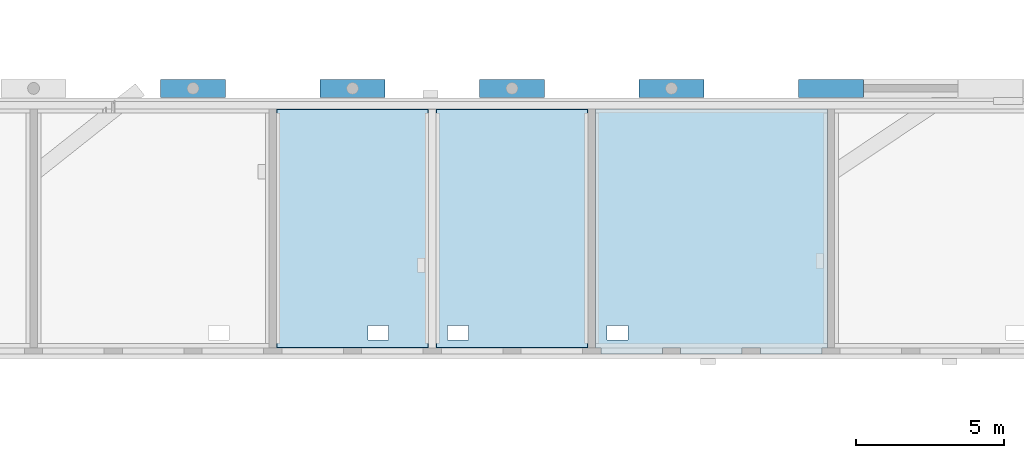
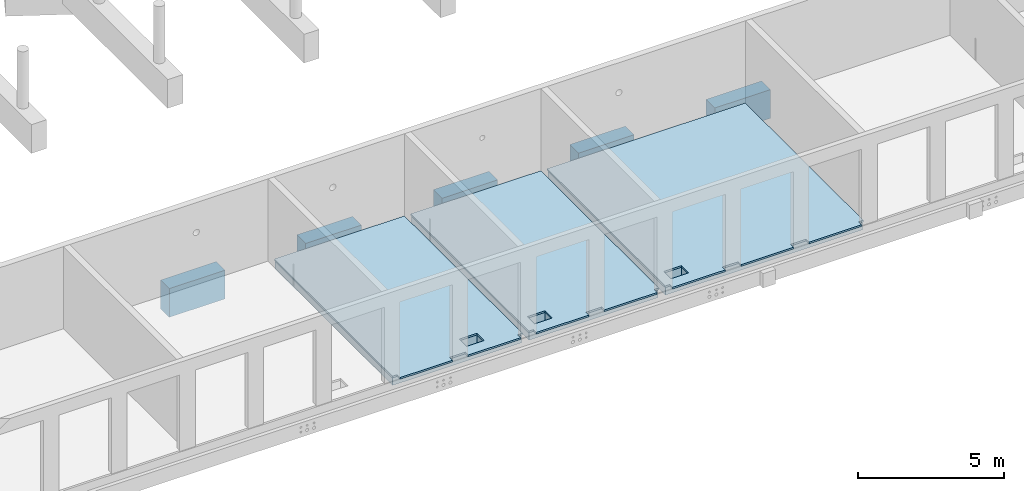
# One storey, part 22 of 60: 11 slabs, 51 openings.
"""IFC2X3 building model written with IfcOpenShell, lengths in millimetres."""

from ifc_helpers import new_model, entity, si_unit, converted_unit, derived_unit, direction, frame, frame_2d, origin, origin_2d_with_axis, place, context, subcontext, project, spatial, polyline, rectangle, outline, extrude, material, layer, layer_set, layer_usage, element, save


model = new_model("IFC2X3")

# Units and contexts
model_context = context("Model", 3, precision=0.01, world=origin(), true_north=direction((6.12303176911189e-17, 1.0)))
body_context = subcontext(model_context, "Body", "Model", "MODEL_VIEW")
ifc_project = project(units=[si_unit("LENGTHUNIT", "METRE", prefix="MILLI"), si_unit("AREAUNIT", "SQUARE_METRE"), si_unit("VOLUMEUNIT", "CUBIC_METRE"), converted_unit("PLANEANGLEUNIT", "DEGREE", entity("IfcRatioMeasure", 0.0174532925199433), si_unit("PLANEANGLEUNIT", "RADIAN"), dimensions=[0, 0, 0, 0, 0, 0, 0]), si_unit("MASSUNIT", "GRAM", prefix="KILO"), derived_unit("MASSDENSITYUNIT", [(si_unit("MASSUNIT", "GRAM", prefix="KILO"), 1), (si_unit("LENGTHUNIT", "METRE"), -3)]), si_unit("TIMEUNIT", "SECOND"), si_unit("FREQUENCYUNIT", "HERTZ"), si_unit("THERMODYNAMICTEMPERATUREUNIT", "DEGREE_CELSIUS"), derived_unit("THERMALTRANSMITTANCEUNIT", [(si_unit("MASSUNIT", "GRAM", prefix="KILO"), 1), (si_unit("THERMODYNAMICTEMPERATUREUNIT", "KELVIN"), -1), (si_unit("TIMEUNIT", "SECOND"), -3)]), derived_unit("VOLUMETRICFLOWRATEUNIT", [(si_unit("LENGTHUNIT", "METRE"), 3), (si_unit("TIMEUNIT", "SECOND"), -1)]), si_unit("ELECTRICCURRENTUNIT", "AMPERE"), si_unit("ELECTRICVOLTAGEUNIT", "VOLT"), si_unit("POWERUNIT", "WATT"), si_unit("FORCEUNIT", "NEWTON", prefix="KILO"), si_unit("ILLUMINANCEUNIT", "LUX"), si_unit("LUMINOUSFLUXUNIT", "LUMEN"), si_unit("LUMINOUSINTENSITYUNIT", "CANDELA"), derived_unit("USERDEFINED", [(si_unit("MASSUNIT", "GRAM", prefix="KILO"), -1), (si_unit("LENGTHUNIT", "METRE"), -2), (si_unit("TIMEUNIT", "SECOND"), 3), (si_unit("LUMINOUSFLUXUNIT", "LUMEN"), 1)]), derived_unit("LINEARVELOCITYUNIT", [(si_unit("LENGTHUNIT", "METRE"), 1), (si_unit("TIMEUNIT", "SECOND"), -1)]), si_unit("PRESSUREUNIT", "PASCAL"), derived_unit("USERDEFINED", [(si_unit("LENGTHUNIT", "METRE"), -2), (si_unit("MASSUNIT", "GRAM", prefix="KILO"), 1), (si_unit("TIMEUNIT", "SECOND"), -2)])], contexts=[model_context])

# Site, building, storey
site_placement = place(None, origin())
site = spatial("IfcSite", under=ifc_project, at=site_placement, Name="Default", CompositionType="ELEMENT")
building_placement = place(site_placement, origin())
building = spatial("IfcBuilding", under=site, at=building_placement, Name="niet gebruiken", CompositionType="ELEMENT")
storey_placement = place(building_placement, origin())
storey = spatial("IfcBuildingStorey", under=building, at=storey_placement, Name="00 begane grond", CompositionType="ELEMENT", Elevation=0.0)

# Slab, openings
ifc_material_1 = material(Name="NLRS_f2_beton ihwg")
ifc_layer_1 = layer(ifc_material_1, 70.0)
ifc_layer_set_1 = layer_set([ifc_layer_1], Name="Floor:NLRS_23.21_FL_druklaag d=70_gen")
ifc_layer_usage_1 = layer_usage(ifc_layer_set_1, "AXIS3", "POSITIVE", 0.0)
slab_1_placement = place(storey_placement, frame((2800.0, 200.0, -160.0)))
slab_1 = element("IfcSlab", 1, at=slab_1_placement, inside=storey, material=ifc_layer_usage_1, Name="Floor:NLRS_23.21_FL_druklaag d=70_gen:7", ObjectType="Floor:NLRS_23.21_FL_druklaag d=70_gen", PredefinedType="FLOOR", context=body_context, shape_type="SweptSolid", body=[
    extrude(outline(polyline([(17327.5000000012, -3948.0), (17512.5000000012, -3948.0), (17512.5000000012, 4148.0), (12362.5000000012, 4148.0), (12362.5000000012, -3948.0), (12547.5000000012, -3948.0), (12547.5000000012, -4148.0), (14627.5000000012, -4148.0), (14627.5000000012, -3948.0), (15247.5000000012, -3948.0), (15247.5000000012, -4148.0), (17327.5000000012, -4148.0), (17327.5000000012, -3948.0)])), frame((49937.5, 4148.0, 70.0), z_axis=(0.0, 0.0, -1.0), x_axis=(-1.0, 0.0, 0.0)), (0.0, 0.0, 1.0), 70.0),
])
placement_1 = place(storey_placement, frame((2800.0, 200.0, -160.0)))
placement_2 = place(placement_1, origin())
element("IfcOpeningElement", 2, at=placement_2, cuts=slab_1, ObjectType="Opening", context=body_context, shape_type="SweptSolid", body=[
    extrude(rectangle(XDim=699.999999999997, YDim=500.000000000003, at=origin_2d_with_axis()), frame((89870.0, 725.0, -380.0), z_axis=(0.0, 0.0, 1.0), x_axis=(-1.0, 0.0, 0.0)), (0.0, 0.0, 1.0), 450.0),
])
placement_3 = place(placement_1, origin())
element("IfcOpeningElement", 3, at=placement_3, cuts=slab_1, ObjectType="Opening", context=body_context, shape_type="SweptSolid", body=[
    extrude(rectangle(XDim=699.999999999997, YDim=500.000000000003, at=origin_2d_with_axis()), frame((92570.0, 725.0, -380.0), z_axis=(0.0, 0.0, 1.0), x_axis=(-1.0, 0.0, 0.0)), (0.0, 0.0, 1.0), 450.0),
])
placement_4 = place(placement_1, origin())
element("IfcOpeningElement", 4, at=placement_4, cuts=slab_1, ObjectType="Opening", context=body_context, shape_type="SweptSolid", body=[
    extrude(rectangle(XDim=699.999999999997, YDim=500.000000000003, at=origin_2d_with_axis()), frame((84470.0, 725.0, -380.0), z_axis=(0.0, 0.0, 1.0), x_axis=(-1.0, 0.0, 0.0)), (0.0, 0.0, 1.0), 450.0),
])
placement_5 = place(placement_1, origin())
element("IfcOpeningElement", 5, at=placement_5, cuts=slab_1, ObjectType="Opening", context=body_context, shape_type="SweptSolid", body=[
    extrude(rectangle(XDim=700.000000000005, YDim=500.000000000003, at=origin_2d_with_axis()), frame((70970.0, 725.0, -380.0), z_axis=(0.0, 0.0, 1.0), x_axis=(-1.0, 0.0, 0.0)), (0.0, 0.0, 1.0), 450.0),
])
placement_6 = place(placement_1, origin())
element("IfcOpeningElement", 6, at=placement_6, cuts=slab_1, ObjectType="Opening", context=body_context, shape_type="SweptSolid", body=[
    extrude(rectangle(XDim=700.000000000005, YDim=500.000000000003, at=origin_2d_with_axis()), frame((65570.0, 725.0, -380.0), z_axis=(0.0, 0.0, 1.0), x_axis=(-1.0, 0.0, 0.0)), (0.0, 0.0, 1.0), 450.0),
])
placement_7 = place(placement_1, origin())
element("IfcOpeningElement", 7, at=placement_7, cuts=slab_1, ObjectType="Opening", context=body_context, shape_type="SweptSolid", body=[
    extrude(rectangle(XDim=700.000000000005, YDim=500.000000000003, at=origin_2d_with_axis()), frame((62870.0, 725.0, -380.0), z_axis=(0.0, 0.0, 1.0), x_axis=(-1.0, 0.0, 0.0)), (0.0, 0.0, 1.0), 450.0),
])
placement_8 = place(placement_1, origin())
element("IfcOpeningElement", 8, at=placement_8, cuts=slab_1, ObjectType="Opening", context=body_context, shape_type="SweptSolid", body=[
    extrude(rectangle(XDim=700.000000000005, YDim=500.000000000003, at=origin_2d_with_axis()), frame((57470.0, 725.0, -380.0), z_axis=(0.0, 0.0, 1.0), x_axis=(-1.0, 0.0, 0.0)), (0.0, 0.0, 1.0), 450.0),
])
placement_9 = place(placement_1, origin())
element("IfcOpeningElement", 9, at=placement_9, cuts=slab_1, ObjectType="Opening", context=body_context, shape_type="SweptSolid", body=[
    extrude(rectangle(XDim=700.000000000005, YDim=500.000000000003, at=origin_2d_with_axis()), frame((43970.0, 725.0, -380.0), z_axis=(0.0, 0.0, 1.0), x_axis=(-1.0, 0.0, 0.0)), (0.0, 0.0, 1.0), 450.0),
])
placement_10 = place(placement_1, origin())
element("IfcOpeningElement", 10, at=placement_10, cuts=slab_1, ObjectType="Opening", context=body_context, shape_type="SweptSolid", body=[
    extrude(rectangle(XDim=700.000000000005, YDim=500.000000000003, at=origin_2d_with_axis()), frame((38570.0, 725.0, -380.0), z_axis=(0.0, 0.0, 1.0), x_axis=(-1.0, 0.0, 0.0)), (0.0, 0.0, 1.0), 450.0),
])
placement_11 = place(placement_1, origin())
element("IfcOpeningElement", 11, at=placement_11, cuts=slab_1, ObjectType="Opening", context=body_context, shape_type="SweptSolid", body=[
    extrude(rectangle(XDim=700.000000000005, YDim=500.000000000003, at=origin_2d_with_axis()), frame((35870.0, 725.0, -380.0), z_axis=(0.0, 0.0, 1.0), x_axis=(-1.0, 0.0, 0.0)), (0.0, 0.0, 1.0), 450.0),
])
placement_12 = place(placement_1, origin())
element("IfcOpeningElement", 12, at=placement_12, cuts=slab_1, ObjectType="Opening", context=body_context, shape_type="SweptSolid", body=[
    extrude(rectangle(XDim=700.000000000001, YDim=500.000000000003, at=origin_2d_with_axis()), frame((30470.0, 725.0, -380.0), z_axis=(0.0, 0.0, 1.0), x_axis=(-1.0, 0.0, 0.0)), (0.0, 0.0, 1.0), 450.0),
])
placement_13 = place(placement_1, origin())
element("IfcOpeningElement", 13, at=placement_13, cuts=slab_1, ObjectType="Opening", context=body_context, shape_type="SweptSolid", body=[
    extrude(rectangle(XDim=700.000000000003, YDim=500.000000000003, at=origin_2d_with_axis()), frame((16970.0, 725.0, -380.0), z_axis=(0.0, 0.0, 1.0), x_axis=(-1.0, 0.0, 0.0)), (0.0, 0.0, 1.0), 450.0),
])
placement_14 = place(placement_1, origin())
element("IfcOpeningElement", 14, at=placement_14, cuts=slab_1, ObjectType="Opening", context=body_context, shape_type="SweptSolid", body=[
    extrude(rectangle(XDim=700.000000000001, YDim=500.000000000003, at=origin_2d_with_axis()), frame((11570.0, 725.0, -380.0), z_axis=(0.0, 0.0, 1.0), x_axis=(-1.0, 0.0, 0.0)), (0.0, 0.0, 1.0), 450.0),
])
placement_15 = place(placement_1, origin())
element("IfcOpeningElement", 15, at=placement_15, cuts=slab_1, ObjectType="Opening", context=body_context, shape_type="SweptSolid", body=[
    extrude(rectangle(XDim=700.000000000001, YDim=500.000000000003, at=origin_2d_with_axis()), frame((8870.0, 725.0, -380.0), z_axis=(0.0, 0.0, 1.0), x_axis=(-1.0, 0.0, 0.0)), (0.0, 0.0, 1.0), 450.0),
])
placement_16 = place(placement_1, origin())
element("IfcOpeningElement", 16, at=placement_16, cuts=slab_1, ObjectType="Opening", context=body_context, shape_type="SweptSolid", body=[
    extrude(rectangle(XDim=700.000000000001, YDim=500.000000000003, at=origin_2d_with_axis()), frame((3470.0, 725.0, -380.0), z_axis=(0.0, 0.0, 1.0), x_axis=(-1.0, 0.0, 0.0)), (0.0, 0.0, 1.0), 450.0),
])
placement_17 = place(placement_1, origin())
element("IfcOpeningElement", 17, at=placement_17, cuts=slab_1, ObjectType="Opening", context=body_context, shape_type="SweptSolid", body=[
    extrude(rectangle(XDim=699.999999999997, YDim=500.000000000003, at=origin_2d_with_axis()), frame((99205.001708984, 4120.00003051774, -380.0), z_axis=(0.0, 0.0, 1.0), x_axis=(-1.0, 0.0, 0.0)), (0.0, 0.0, 1.0), 450.0),
])

slab_2_placement = place(storey_placement, frame((2800.0, 200.0, -160.0)))
slab_2 = element("IfcSlab", 18, at=slab_2_placement, inside=storey, material=ifc_layer_usage_1, Name="Floor:NLRS_23.21_FL_druklaag d=70_gen:8", ObjectType="Floor:NLRS_23.21_FL_druklaag d=70_gen", PredefinedType="FLOOR", context=body_context, shape_type="SweptSolid", body=[
    extrude(outline(polyline([(11927.5000000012, -3948.0), (12112.5000000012, -3948.0), (12112.5000000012, 4148.0), (6962.50000000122, 4148.0), (6962.50000000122, -3948.0), (7147.50000000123, -3948.0), (7147.50000000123, -4148.0), (9227.50000000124, -4148.0), (9227.50000000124, -3948.0), (9847.50000000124, -3948.0), (9847.50000000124, -4148.0), (11927.5000000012, -4148.0), (11927.5000000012, -3948.0)])), frame((49937.5, 4148.0, 70.0), z_axis=(0.0, 0.0, -1.0), x_axis=(-1.0, 0.0, 0.0)), (0.0, 0.0, 1.0), 70.0),
])
element("IfcOpeningElement", 19, at=placement_2, cuts=slab_2, ObjectType="Opening", context=body_context, shape_type="SweptSolid", body=[
    extrude(rectangle(XDim=699.999999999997, YDim=500.000000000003, at=origin_2d_with_axis()), frame((89870.0, 725.0, -380.0), z_axis=(0.0, 0.0, 1.0), x_axis=(-1.0, 0.0, 0.0)), (0.0, 0.0, 1.0), 450.0),
])
element("IfcOpeningElement", 20, at=placement_3, cuts=slab_2, ObjectType="Opening", context=body_context, shape_type="SweptSolid", body=[
    extrude(rectangle(XDim=699.999999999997, YDim=500.000000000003, at=origin_2d_with_axis()), frame((92570.0, 725.0, -380.0), z_axis=(0.0, 0.0, 1.0), x_axis=(-1.0, 0.0, 0.0)), (0.0, 0.0, 1.0), 450.0),
])
element("IfcOpeningElement", 21, at=placement_4, cuts=slab_2, ObjectType="Opening", context=body_context, shape_type="SweptSolid", body=[
    extrude(rectangle(XDim=699.999999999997, YDim=500.000000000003, at=origin_2d_with_axis()), frame((84470.0, 725.0, -380.0), z_axis=(0.0, 0.0, 1.0), x_axis=(-1.0, 0.0, 0.0)), (0.0, 0.0, 1.0), 450.0),
])
element("IfcOpeningElement", 22, at=placement_5, cuts=slab_2, ObjectType="Opening", context=body_context, shape_type="SweptSolid", body=[
    extrude(rectangle(XDim=700.000000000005, YDim=500.000000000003, at=origin_2d_with_axis()), frame((70970.0, 725.0, -380.0), z_axis=(0.0, 0.0, 1.0), x_axis=(-1.0, 0.0, 0.0)), (0.0, 0.0, 1.0), 450.0),
])
element("IfcOpeningElement", 23, at=placement_6, cuts=slab_2, ObjectType="Opening", context=body_context, shape_type="SweptSolid", body=[
    extrude(rectangle(XDim=700.000000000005, YDim=500.000000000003, at=origin_2d_with_axis()), frame((65570.0, 725.0, -380.0), z_axis=(0.0, 0.0, 1.0), x_axis=(-1.0, 0.0, 0.0)), (0.0, 0.0, 1.0), 450.0),
])
element("IfcOpeningElement", 24, at=placement_7, cuts=slab_2, ObjectType="Opening", context=body_context, shape_type="SweptSolid", body=[
    extrude(rectangle(XDim=700.000000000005, YDim=500.000000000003, at=origin_2d_with_axis()), frame((62870.0, 725.0, -380.0), z_axis=(0.0, 0.0, 1.0), x_axis=(-1.0, 0.0, 0.0)), (0.0, 0.0, 1.0), 450.0),
])
element("IfcOpeningElement", 25, at=placement_8, cuts=slab_2, ObjectType="Opening", context=body_context, shape_type="SweptSolid", body=[
    extrude(rectangle(XDim=700.000000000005, YDim=500.000000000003, at=origin_2d_with_axis()), frame((57470.0, 725.0, -380.0), z_axis=(0.0, 0.0, 1.0), x_axis=(-1.0, 0.0, 0.0)), (0.0, 0.0, 1.0), 450.0),
])
element("IfcOpeningElement", 26, at=placement_9, cuts=slab_2, ObjectType="Opening", context=body_context, shape_type="SweptSolid", body=[
    extrude(rectangle(XDim=700.000000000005, YDim=500.000000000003, at=origin_2d_with_axis()), frame((43970.0, 725.0, -380.0), z_axis=(0.0, 0.0, 1.0), x_axis=(-1.0, 0.0, 0.0)), (0.0, 0.0, 1.0), 450.0),
])
element("IfcOpeningElement", 27, at=placement_10, cuts=slab_2, ObjectType="Opening", context=body_context, shape_type="SweptSolid", body=[
    extrude(rectangle(XDim=700.000000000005, YDim=500.000000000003, at=origin_2d_with_axis()), frame((38570.0, 725.0, -380.0), z_axis=(0.0, 0.0, 1.0), x_axis=(-1.0, 0.0, 0.0)), (0.0, 0.0, 1.0), 450.0),
])
element("IfcOpeningElement", 28, at=placement_11, cuts=slab_2, ObjectType="Opening", context=body_context, shape_type="SweptSolid", body=[
    extrude(rectangle(XDim=700.000000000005, YDim=500.000000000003, at=origin_2d_with_axis()), frame((35870.0, 725.0, -380.0), z_axis=(0.0, 0.0, 1.0), x_axis=(-1.0, 0.0, 0.0)), (0.0, 0.0, 1.0), 450.0),
])
element("IfcOpeningElement", 29, at=placement_12, cuts=slab_2, ObjectType="Opening", context=body_context, shape_type="SweptSolid", body=[
    extrude(rectangle(XDim=700.000000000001, YDim=500.000000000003, at=origin_2d_with_axis()), frame((30470.0, 725.0, -380.0), z_axis=(0.0, 0.0, 1.0), x_axis=(-1.0, 0.0, 0.0)), (0.0, 0.0, 1.0), 450.0),
])
element("IfcOpeningElement", 30, at=placement_13, cuts=slab_2, ObjectType="Opening", context=body_context, shape_type="SweptSolid", body=[
    extrude(rectangle(XDim=700.000000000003, YDim=500.000000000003, at=origin_2d_with_axis()), frame((16970.0, 725.0, -380.0), z_axis=(0.0, 0.0, 1.0), x_axis=(-1.0, 0.0, 0.0)), (0.0, 0.0, 1.0), 450.0),
])
element("IfcOpeningElement", 31, at=placement_14, cuts=slab_2, ObjectType="Opening", context=body_context, shape_type="SweptSolid", body=[
    extrude(rectangle(XDim=700.000000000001, YDim=500.000000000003, at=origin_2d_with_axis()), frame((11570.0, 725.0, -380.0), z_axis=(0.0, 0.0, 1.0), x_axis=(-1.0, 0.0, 0.0)), (0.0, 0.0, 1.0), 450.0),
])
element("IfcOpeningElement", 32, at=placement_15, cuts=slab_2, ObjectType="Opening", context=body_context, shape_type="SweptSolid", body=[
    extrude(rectangle(XDim=700.000000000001, YDim=500.000000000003, at=origin_2d_with_axis()), frame((8870.0, 725.0, -380.0), z_axis=(0.0, 0.0, 1.0), x_axis=(-1.0, 0.0, 0.0)), (0.0, 0.0, 1.0), 450.0),
])
element("IfcOpeningElement", 33, at=placement_16, cuts=slab_2, ObjectType="Opening", context=body_context, shape_type="SweptSolid", body=[
    extrude(rectangle(XDim=700.000000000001, YDim=500.000000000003, at=origin_2d_with_axis()), frame((3470.0, 725.0, -380.0), z_axis=(0.0, 0.0, 1.0), x_axis=(-1.0, 0.0, 0.0)), (0.0, 0.0, 1.0), 450.0),
])
element("IfcOpeningElement", 34, at=placement_17, cuts=slab_2, ObjectType="Opening", context=body_context, shape_type="SweptSolid", body=[
    extrude(rectangle(XDim=699.999999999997, YDim=500.000000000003, at=origin_2d_with_axis()), frame((99205.001708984, 4120.00003051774, -380.0), z_axis=(0.0, 0.0, 1.0), x_axis=(-1.0, 0.0, 0.0)), (0.0, 0.0, 1.0), 450.0),
])

slab_3_placement = place(storey_placement, frame((2800.0, 200.0, -160.0)))
slab_3 = element("IfcSlab", 35, at=slab_3_placement, inside=storey, material=ifc_layer_usage_1, Name="Floor:NLRS_23.21_FL_druklaag d=70_gen:9", ObjectType="Floor:NLRS_23.21_FL_druklaag d=70_gen", PredefinedType="FLOOR", context=body_context, shape_type="SweptSolid", body=[
    extrude(outline(polyline([(6527.50000000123, -3948.0), (6712.50000000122, -3948.0), (6712.50000000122, 4148.0), (-1137.49999999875, 4148.0), (-1137.49999999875, -3948.0), (-952.499999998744, -3948.0), (-952.499999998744, -4148.0), (1127.50000000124, -4148.0), (1127.50000000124, -3948.0), (1747.50000000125, -3948.0), (1747.50000000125, -4148.0), (3827.50000000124, -4148.0), (3827.50000000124, -3948.0), (4447.50000000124, -3948.0), (4447.50000000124, -4148.0), (6527.50000000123, -4148.0), (6527.50000000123, -3948.0)])), frame((49937.5, 4148.0, 70.0), z_axis=(0.0, 0.0, -1.0), x_axis=(-1.0, 0.0, 0.0)), (0.0, 0.0, 1.0), 70.0),
])
element("IfcOpeningElement", 36, at=placement_2, cuts=slab_3, ObjectType="Opening", context=body_context, shape_type="SweptSolid", body=[
    extrude(rectangle(XDim=699.999999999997, YDim=500.000000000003, at=origin_2d_with_axis()), frame((89870.0, 725.0, -380.0), z_axis=(0.0, 0.0, 1.0), x_axis=(-1.0, 0.0, 0.0)), (0.0, 0.0, 1.0), 450.0),
])
element("IfcOpeningElement", 37, at=placement_3, cuts=slab_3, ObjectType="Opening", context=body_context, shape_type="SweptSolid", body=[
    extrude(rectangle(XDim=699.999999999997, YDim=500.000000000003, at=origin_2d_with_axis()), frame((92570.0, 725.0, -380.0), z_axis=(0.0, 0.0, 1.0), x_axis=(-1.0, 0.0, 0.0)), (0.0, 0.0, 1.0), 450.0),
])
element("IfcOpeningElement", 38, at=placement_4, cuts=slab_3, ObjectType="Opening", context=body_context, shape_type="SweptSolid", body=[
    extrude(rectangle(XDim=699.999999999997, YDim=500.000000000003, at=origin_2d_with_axis()), frame((84470.0, 725.0, -380.0), z_axis=(0.0, 0.0, 1.0), x_axis=(-1.0, 0.0, 0.0)), (0.0, 0.0, 1.0), 450.0),
])
element("IfcOpeningElement", 39, at=placement_5, cuts=slab_3, ObjectType="Opening", context=body_context, shape_type="SweptSolid", body=[
    extrude(rectangle(XDim=700.000000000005, YDim=500.000000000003, at=origin_2d_with_axis()), frame((70970.0, 725.0, -380.0), z_axis=(0.0, 0.0, 1.0), x_axis=(-1.0, 0.0, 0.0)), (0.0, 0.0, 1.0), 450.0),
])
element("IfcOpeningElement", 40, at=placement_6, cuts=slab_3, ObjectType="Opening", context=body_context, shape_type="SweptSolid", body=[
    extrude(rectangle(XDim=700.000000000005, YDim=500.000000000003, at=origin_2d_with_axis()), frame((65570.0, 725.0, -380.0), z_axis=(0.0, 0.0, 1.0), x_axis=(-1.0, 0.0, 0.0)), (0.0, 0.0, 1.0), 450.0),
])
element("IfcOpeningElement", 41, at=placement_7, cuts=slab_3, ObjectType="Opening", context=body_context, shape_type="SweptSolid", body=[
    extrude(rectangle(XDim=700.000000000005, YDim=500.000000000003, at=origin_2d_with_axis()), frame((62870.0, 725.0, -380.0), z_axis=(0.0, 0.0, 1.0), x_axis=(-1.0, 0.0, 0.0)), (0.0, 0.0, 1.0), 450.0),
])
element("IfcOpeningElement", 42, at=placement_8, cuts=slab_3, ObjectType="Opening", context=body_context, shape_type="SweptSolid", body=[
    extrude(rectangle(XDim=700.000000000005, YDim=500.000000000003, at=origin_2d_with_axis()), frame((57470.0, 725.0, -380.0), z_axis=(0.0, 0.0, 1.0), x_axis=(-1.0, 0.0, 0.0)), (0.0, 0.0, 1.0), 450.0),
])
element("IfcOpeningElement", 43, at=placement_9, cuts=slab_3, ObjectType="Opening", context=body_context, shape_type="SweptSolid", body=[
    extrude(rectangle(XDim=700.000000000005, YDim=500.000000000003, at=origin_2d_with_axis()), frame((43970.0, 725.0, -380.0), z_axis=(0.0, 0.0, 1.0), x_axis=(-1.0, 0.0, 0.0)), (0.0, 0.0, 1.0), 450.0),
])
element("IfcOpeningElement", 44, at=placement_10, cuts=slab_3, ObjectType="Opening", context=body_context, shape_type="SweptSolid", body=[
    extrude(rectangle(XDim=700.000000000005, YDim=500.000000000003, at=origin_2d_with_axis()), frame((38570.0, 725.0, -380.0), z_axis=(0.0, 0.0, 1.0), x_axis=(-1.0, 0.0, 0.0)), (0.0, 0.0, 1.0), 450.0),
])
element("IfcOpeningElement", 45, at=placement_11, cuts=slab_3, ObjectType="Opening", context=body_context, shape_type="SweptSolid", body=[
    extrude(rectangle(XDim=700.000000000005, YDim=500.000000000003, at=origin_2d_with_axis()), frame((35870.0, 725.0, -380.0), z_axis=(0.0, 0.0, 1.0), x_axis=(-1.0, 0.0, 0.0)), (0.0, 0.0, 1.0), 450.0),
])
element("IfcOpeningElement", 46, at=placement_12, cuts=slab_3, ObjectType="Opening", context=body_context, shape_type="SweptSolid", body=[
    extrude(rectangle(XDim=700.000000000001, YDim=500.000000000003, at=origin_2d_with_axis()), frame((30470.0, 725.0, -380.0), z_axis=(0.0, 0.0, 1.0), x_axis=(-1.0, 0.0, 0.0)), (0.0, 0.0, 1.0), 450.0),
])
element("IfcOpeningElement", 47, at=placement_13, cuts=slab_3, ObjectType="Opening", context=body_context, shape_type="SweptSolid", body=[
    extrude(rectangle(XDim=700.000000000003, YDim=500.000000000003, at=origin_2d_with_axis()), frame((16970.0, 725.0, -380.0), z_axis=(0.0, 0.0, 1.0), x_axis=(-1.0, 0.0, 0.0)), (0.0, 0.0, 1.0), 450.0),
])
element("IfcOpeningElement", 48, at=placement_14, cuts=slab_3, ObjectType="Opening", context=body_context, shape_type="SweptSolid", body=[
    extrude(rectangle(XDim=700.000000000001, YDim=500.000000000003, at=origin_2d_with_axis()), frame((11570.0, 725.0, -380.0), z_axis=(0.0, 0.0, 1.0), x_axis=(-1.0, 0.0, 0.0)), (0.0, 0.0, 1.0), 450.0),
])
element("IfcOpeningElement", 49, at=placement_15, cuts=slab_3, ObjectType="Opening", context=body_context, shape_type="SweptSolid", body=[
    extrude(rectangle(XDim=700.000000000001, YDim=500.000000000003, at=origin_2d_with_axis()), frame((8870.0, 725.0, -380.0), z_axis=(0.0, 0.0, 1.0), x_axis=(-1.0, 0.0, 0.0)), (0.0, 0.0, 1.0), 450.0),
])
element("IfcOpeningElement", 50, at=placement_16, cuts=slab_3, ObjectType="Opening", context=body_context, shape_type="SweptSolid", body=[
    extrude(rectangle(XDim=700.000000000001, YDim=500.000000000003, at=origin_2d_with_axis()), frame((3470.0, 725.0, -380.0), z_axis=(0.0, 0.0, 1.0), x_axis=(-1.0, 0.0, 0.0)), (0.0, 0.0, 1.0), 450.0),
])
element("IfcOpeningElement", 51, at=placement_17, cuts=slab_3, ObjectType="Opening", context=body_context, shape_type="SweptSolid", body=[
    extrude(rectangle(XDim=699.999999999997, YDim=500.000000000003, at=origin_2d_with_axis()), frame((99205.001708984, 4120.00003051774, -380.0), z_axis=(0.0, 0.0, 1.0), x_axis=(-1.0, 0.0, 0.0)), (0.0, 0.0, 1.0), 450.0),
])

# Slab, opening
ifc_material_2 = material(Name="NLRS_f2_beton prefab")
ifc_layer_2 = layer(ifc_material_2, 200.0)
ifc_material_3 = material(Name="NLRS_n7_isolatie EPS")
ifc_layer_3 = layer(ifc_material_3, 132.0)
ifc_layer_set_2 = layer_set([ifc_layer_2, ifc_layer_3], Name="Floor:NLRS_23.21_FL_geisoleerde kanaalplaat d=200 rc 3.5 iso132_gen")
ifc_layer_usage_2 = layer_usage(ifc_layer_set_2, "AXIS3", "POSITIVE", 0.0)
slab_4_placement = place(storey_placement, frame((35245.0, 420.0, -492.0)))
slab_4 = element("IfcSlab", 52, at=slab_4_placement, inside=storey, material=ifc_layer_usage_2, Name="Floor:NLRS_23.21_FL_geisoleerde kanaalplaat d=200 rc 3.5 iso132_gen", ObjectType="Floor:NLRS_23.21_FL_geisoleerde kanaalplaat d=200 rc 3.5 iso132_gen", PredefinedType="FLOOR", context=body_context, shape_type="SweptSolid", body=[
    extrude(rectangle(XDim=8056.00000000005, YDim=5109.99999999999, at=frame_2d((0.0, 0.0), x_axis=(0.0, -1.0))), frame((2555.0, 4028.0, 332.0), z_axis=(0.0, 0.0, -1.0), x_axis=(-1.0, 0.0, 0.0)), (0.0, 0.0, 1.0), 332.0),
])
opening_49_placement = place(slab_4_placement, origin())
element("IfcOpeningElement", 53, at=opening_49_placement, cuts=slab_4, ObjectType="Opening", context=body_context, shape_type="SweptSolid", body=[
    extrude(rectangle(XDim=700.000000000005, YDim=500.000000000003, at=origin_2d_with_axis()), frame((3425.0, 505.0, -48.0), z_axis=(0.0, 0.0, 1.0), x_axis=(-1.0, 0.0, 0.0)), (0.0, 0.0, 1.0), 450.0),
])

ifc_layer_usage_3 = layer_usage(ifc_layer_set_2, "AXIS3", "POSITIVE", 0.0)
slab_5_placement = place(storey_placement, frame((40645.0, 420.0, -492.0)))
slab_5 = element("IfcSlab", 54, at=slab_5_placement, inside=storey, material=ifc_layer_usage_3, Name="Floor:NLRS_23.21_FL_geisoleerde kanaalplaat d=200 rc 3.5 iso132_gen", ObjectType="Floor:NLRS_23.21_FL_geisoleerde kanaalplaat d=200 rc 3.5 iso132_gen", PredefinedType="FLOOR", context=body_context, shape_type="SweptSolid", body=[
    extrude(rectangle(XDim=8056.00000000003, YDim=5109.99999999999, at=frame_2d((0.0, 0.0), x_axis=(0.0, -1.0))), frame((2555.0, 4028.0, 332.0), z_axis=(0.0, 0.0, -1.0), x_axis=(-1.0, 0.0, 0.0)), (0.0, 0.0, 1.0), 332.0),
])
opening_50_placement = place(slab_5_placement, origin())
element("IfcOpeningElement", 55, at=opening_50_placement, cuts=slab_5, ObjectType="Opening", context=body_context, shape_type="SweptSolid", body=[
    extrude(rectangle(XDim=700.000000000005, YDim=500.000000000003, at=origin_2d_with_axis()), frame((725.0, 505.0, -48.0), z_axis=(0.0, 0.0, 1.0), x_axis=(-1.0, 0.0, 0.0)), (0.0, 0.0, 1.0), 450.0),
])

ifc_layer_usage_4 = layer_usage(ifc_layer_set_2, "AXIS3", "POSITIVE", 0.0)
slab_6_placement = place(storey_placement, frame((46045.0, 420.0, -492.0)))
slab_6 = element("IfcSlab", 56, at=slab_6_placement, inside=storey, material=ifc_layer_usage_4, Name="Floor:NLRS_23.21_FL_geisoleerde kanaalplaat d=200 rc 3.5 iso132_gen", ObjectType="Floor:NLRS_23.21_FL_geisoleerde kanaalplaat d=200 rc 3.5 iso132_gen", PredefinedType="FLOOR", context=body_context, shape_type="SweptSolid", body=[
    extrude(rectangle(XDim=8056.00000000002, YDim=7809.99999999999, at=frame_2d((0.0, 0.0), x_axis=(0.0, -1.0))), frame((3905.0, 4028.0, 332.0), z_axis=(0.0, 0.0, -1.0), x_axis=(-1.0, 0.0, 0.0)), (0.0, 0.0, 1.0), 332.0),
])
opening_51_placement = place(slab_6_placement, origin())
element("IfcOpeningElement", 57, at=opening_51_placement, cuts=slab_6, ObjectType="Opening", context=body_context, shape_type="SweptSolid", body=[
    extrude(rectangle(XDim=700.000000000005, YDim=500.000000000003, at=origin_2d_with_axis()), frame((725.0, 505.0, -48.0), z_axis=(0.0, 0.0, 1.0), x_axis=(-1.0, 0.0, 0.0)), (0.0, 0.0, 1.0), 450.0),
])

# Slabs
slab_7_placement = place(storey_placement, origin())
element("IfcSlab", 58, at=slab_7_placement, inside=storey, material=ifc_material_1, Name="NLRS_16.13_SFO_LB_fundatiepoer_gen:600x2200x1200", ObjectType="NLRS_16.13_SFO_LB_fundatiepoer_gen:600x2200x1200", PredefinedType="BASESLAB", context=body_context, shape_type="SweptSolid", body=[
    extrude(rectangle(XDim=2200.0, YDim=600.0, at=frame_2d((-2.1600499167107e-12, 0.0), x_axis=(1.0, 0.0))), frame((32400.0, 9196.0, -1400.0), z_axis=(0.0, 0.0, 1.0), x_axis=(-1.0, 0.0, 0.0)), (0.0, 0.0, 1.0), 1200.0),
])
slab_8_placement = place(storey_placement, origin())
element("IfcSlab", 59, at=slab_8_placement, inside=storey, material=ifc_material_1, Name="NLRS_16.13_SFO_LB_fundatiepoer_gen:600x2200x1200", ObjectType="NLRS_16.13_SFO_LB_fundatiepoer_gen:600x2200x1200", PredefinedType="BASESLAB", context=body_context, shape_type="SweptSolid", body=[
    extrude(rectangle(XDim=2200.0, YDim=600.0, at=frame_2d((-2.1600499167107e-12, 0.0), x_axis=(1.0, 0.0))), frame((37800.0, 9196.0, -1400.0), z_axis=(0.0, 0.0, 1.0), x_axis=(-1.0, 0.0, 0.0)), (0.0, 0.0, 1.0), 1200.0),
])
slab_9_placement = place(storey_placement, origin())
element("IfcSlab", 60, at=slab_9_placement, inside=storey, material=ifc_material_1, Name="NLRS_16.13_SFO_LB_fundatiepoer_gen:600x2200x1200", ObjectType="NLRS_16.13_SFO_LB_fundatiepoer_gen:600x2200x1200", PredefinedType="BASESLAB", context=body_context, shape_type="SweptSolid", body=[
    extrude(rectangle(XDim=2200.0, YDim=600.0, at=origin_2d_with_axis()), frame((48600.0, 9196.0, -1400.0), z_axis=(0.0, 0.0, 1.0), x_axis=(-1.0, 0.0, 0.0)), (0.0, 0.0, 1.0), 1200.0),
])
slab_10_placement = place(storey_placement, origin())
element("IfcSlab", 61, at=slab_10_placement, inside=storey, material=ifc_material_1, Name="NLRS_16.13_SFO_LB_fundatiepoer_gen:600x2200x1200", ObjectType="NLRS_16.13_SFO_LB_fundatiepoer_gen:600x2200x1200", PredefinedType="BASESLAB", context=body_context, shape_type="SweptSolid", body=[
    extrude(rectangle(XDim=2200.0, YDim=600.0, at=origin_2d_with_axis()), frame((54000.0, 9196.0, -1400.0), z_axis=(0.0, 0.0, 1.0), x_axis=(-1.0, 0.0, 0.0)), (0.0, 0.0, 1.0), 1200.0),
])
slab_11_placement = place(storey_placement, origin())
element("IfcSlab", 62, at=slab_11_placement, inside=storey, material=ifc_material_1, Name="NLRS_16.13_SFO_LB_fundatiepoer_gen:600x2200x1200", ObjectType="NLRS_16.13_SFO_LB_fundatiepoer_gen:600x2200x1200", PredefinedType="BASESLAB", context=body_context, shape_type="SweptSolid", body=[
    extrude(rectangle(XDim=2200.0, YDim=600.0, at=origin_2d_with_axis()), frame((43200.0, 9196.0, -1400.0), z_axis=(0.0, 0.0, 1.0), x_axis=(-1.0, 0.0, 0.0)), (0.0, 0.0, 1.0), 1200.0),
])

save(model, "model.ifc")
